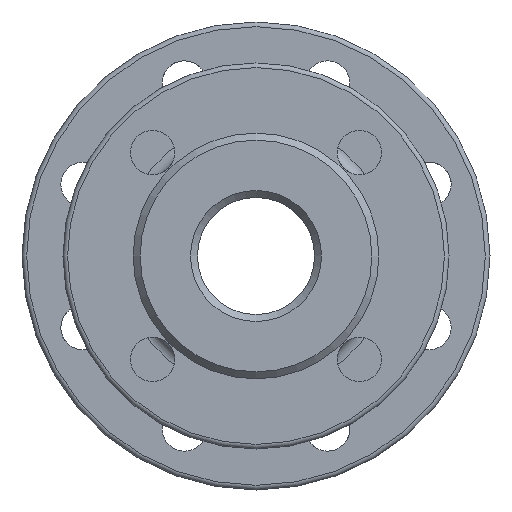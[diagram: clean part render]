
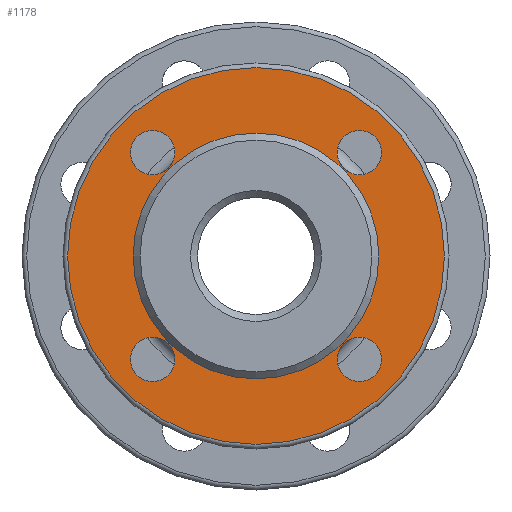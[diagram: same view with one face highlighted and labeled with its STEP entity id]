
A CAD part, left-side view. The second image highlights one B-rep face of the part: STEP entity #1178.
In plain terms, the highlighted planar face has unit normal (-1, 0, 0).
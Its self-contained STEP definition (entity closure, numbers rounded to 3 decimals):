
#6 = FACE_BOUND ( 'NONE', #2209, .T. ) ;
#66 = ORIENTED_EDGE ( 'NONE', *, *, #1582, .F. ) ;
#75 = DIRECTION ( 'NONE',  ( -1., 0., 0. ) ) ;
#167 = FACE_BOUND ( 'NONE', #2229, .T. ) ;
#269 = AXIS2_PLACEMENT_3D ( 'NONE', #933, #2251, #1475 ) ;
#315 = EDGE_CURVE ( 'NONE', #2238, #2238, #1583, .T. ) ;
#389 = ORIENTED_EDGE ( 'NONE', *, *, #2258, .F. ) ;
#394 = CARTESIAN_POINT ( 'NONE',  ( 3., 44.194, 53.694 ) ) ;
#476 = ORIENTED_EDGE ( 'NONE', *, *, #315, .F. ) ;
#530 = CIRCLE ( 'NONE', #723, 80.5 ) ;
#531 = CARTESIAN_POINT ( 'NONE',  ( 3., 0., -80.5 ) ) ;
#552 = CARTESIAN_POINT ( 'NONE',  ( 3., 52.5, 0. ) ) ;
#557 = EDGE_CURVE ( 'NONE', #1909, #1909, #1297, .T. ) ;
#630 = DIRECTION ( 'NONE',  ( 0., 0., 1. ) ) ;
#664 = DIRECTION ( 'NONE',  ( -1., 0., 0. ) ) ;
#689 = CARTESIAN_POINT ( 'NONE',  ( 3., -44.194, -34.694 ) ) ;
#717 = CIRCLE ( 'NONE', #2060, 9.5 ) ;
#723 = AXIS2_PLACEMENT_3D ( 'NONE', #1778, #1387, #1585 ) ;
#737 = PLANE ( 'NONE',  #1949 ) ;
#778 = ORIENTED_EDGE ( 'NONE', *, *, #916, .F. ) ;
#808 = CARTESIAN_POINT ( 'NONE',  ( 3., 44.194, 44.194 ) ) ;
#831 = DIRECTION ( 'NONE',  ( -1., 0., 0. ) ) ;
#891 = VERTEX_POINT ( 'NONE', #2296 ) ;
#904 = VERTEX_POINT ( 'NONE', #531 ) ;
#916 = EDGE_CURVE ( 'NONE', #891, #891, #1709, .T. ) ;
#926 = DIRECTION ( 'NONE',  ( 0., 0., 1. ) ) ;
#933 = CARTESIAN_POINT ( 'NONE',  ( 3., 0., 0. ) ) ;
#982 = CARTESIAN_POINT ( 'NONE',  ( 3., 44.194, -44.194 ) ) ;
#986 = AXIS2_PLACEMENT_3D ( 'NONE', #808, #2240, #630 ) ;
#1069 = VERTEX_POINT ( 'NONE', #1792 ) ;
#1087 = EDGE_LOOP ( 'NONE', ( #1181 ) ) ;
#1119 = DIRECTION ( 'NONE',  ( 0., 0., 1. ) ) ;
#1141 = CARTESIAN_POINT ( 'NONE',  ( 3., 0., -52.5 ) ) ;
#1152 = EDGE_CURVE ( 'NONE', #1415, #1415, #717, .T. ) ;
#1178 = ADVANCED_FACE ( 'NONE', ( #6, #167, #1457, #1466, #2206, #1627 ), #737, .T. ) ;
#1181 = ORIENTED_EDGE ( 'NONE', *, *, #557, .T. ) ;
#1203 = DIRECTION ( 'NONE',  ( 0., 0., 1. ) ) ;
#1210 = EDGE_LOOP ( 'NONE', ( #389 ) ) ;
#1212 = CARTESIAN_POINT ( 'NONE',  ( 3., -44.194, 44.194 ) ) ;
#1297 = CIRCLE ( 'NONE', #269, 52.5 ) ;
#1354 = DIRECTION ( 'NONE',  ( 0., 0., 1. ) ) ;
#1362 = CIRCLE ( 'NONE', #2135, 9.5 ) ;
#1387 = DIRECTION ( 'NONE',  ( 1., 0., 0. ) ) ;
#1415 = VERTEX_POINT ( 'NONE', #689 ) ;
#1451 = EDGE_LOOP ( 'NONE', ( #66 ) ) ;
#1457 = FACE_BOUND ( 'NONE', #1210, .T. ) ;
#1466 = FACE_BOUND ( 'NONE', #1962, .T. ) ;
#1475 = DIRECTION ( 'NONE',  ( 0., 0., -1. ) ) ;
#1492 = DIRECTION ( 'NONE',  ( -1., 0., 0. ) ) ;
#1582 = EDGE_CURVE ( 'NONE', #904, #904, #530, .T. ) ;
#1583 = CIRCLE ( 'NONE', #986, 9.5 ) ;
#1585 = DIRECTION ( 'NONE',  ( 0., 0., -1. ) ) ;
#1593 = AXIS2_PLACEMENT_3D ( 'NONE', #982, #831, #1203 ) ;
#1627 = FACE_OUTER_BOUND ( 'NONE', #1451, .T. ) ;
#1709 = CIRCLE ( 'NONE', #1593, 9.5 ) ;
#1778 = CARTESIAN_POINT ( 'NONE',  ( 3., 0., 0. ) ) ;
#1782 = CARTESIAN_POINT ( 'NONE',  ( 3., -44.194, -44.194 ) ) ;
#1792 = CARTESIAN_POINT ( 'NONE',  ( 3., -44.194, 53.694 ) ) ;
#1909 = VERTEX_POINT ( 'NONE', #1141 ) ;
#1949 = AXIS2_PLACEMENT_3D ( 'NONE', #552, #1492, #926 ) ;
#1962 = EDGE_LOOP ( 'NONE', ( #476 ) ) ;
#2060 = AXIS2_PLACEMENT_3D ( 'NONE', #1782, #664, #1119 ) ;
#2135 = AXIS2_PLACEMENT_3D ( 'NONE', #1212, #75, #1354 ) ;
#2206 = FACE_BOUND ( 'NONE', #1087, .T. ) ;
#2209 = EDGE_LOOP ( 'NONE', ( #778 ) ) ;
#2229 = EDGE_LOOP ( 'NONE', ( #2249 ) ) ;
#2238 = VERTEX_POINT ( 'NONE', #394 ) ;
#2240 = DIRECTION ( 'NONE',  ( -1., 0., 0. ) ) ;
#2249 = ORIENTED_EDGE ( 'NONE', *, *, #1152, .F. ) ;
#2251 = DIRECTION ( 'NONE',  ( 1., 0., 0. ) ) ;
#2258 = EDGE_CURVE ( 'NONE', #1069, #1069, #1362, .T. ) ;
#2296 = CARTESIAN_POINT ( 'NONE',  ( 3., 44.194, -34.694 ) ) ;
